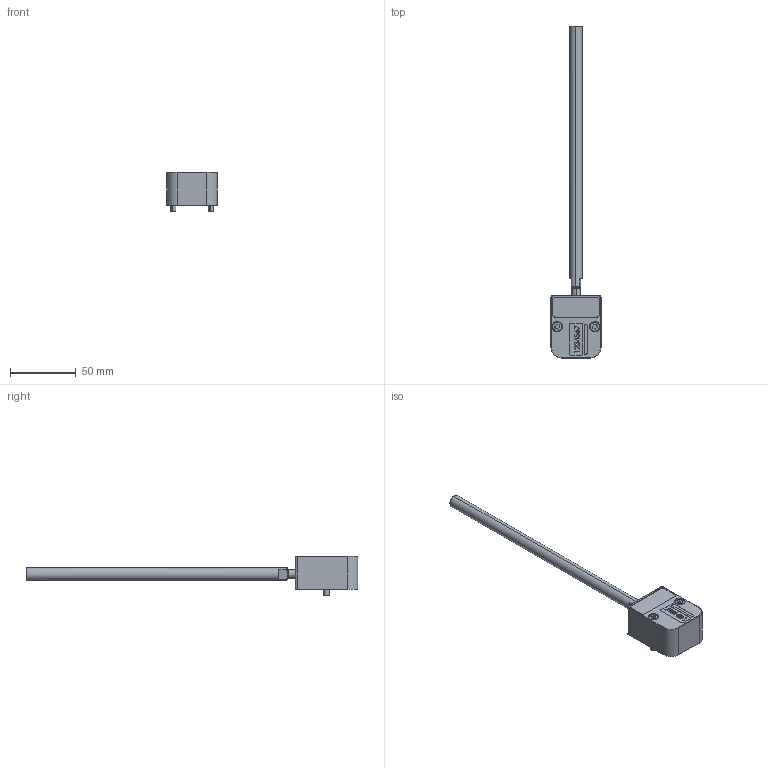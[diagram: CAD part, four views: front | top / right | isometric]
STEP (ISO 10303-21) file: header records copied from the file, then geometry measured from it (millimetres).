
FILE_DESCRIPTION (( 'STEP AP203' ), '1' );
FILE_NAME ('CVIN-B.step', '2020-03-20T01:07:54', ( 'Microsoft Corporation' ), ( 'MS' ), 'SwSTEP 2.0', 'SolidWorks 2017', '' );
FILE_SCHEMA (( 'CONFIG_CONTROL_DESIGN' ));
Length unit declared in the file: inch
Products named in the file (5): SHCSM4L25_SHCSM4L25; CVINT-1; CVIN-B; SHCS8L1.00_SHCS8L1.00
Assembly tree (6 placements, depth 2):
  CVIN-B
    CVIN-B
    CVINT-1
    SHCS8L1.00_SHCS8L1.00  x2
    SHCSM4L25_SHCSM4L25  x2
Bounding box: 38.1 x 252.6 x 30.35 mm (x, y, z)
Volume: 59874.1 mm3; surface area: 16967.2 mm2
Topology: 6 solids, 6 shells, 231 faces, 562 edges, 366 vertices
Faces by surface type: plane 121, cylinder 52, bspline 37, torus 11, cone 10
Entity records: 8585 total; most frequent: CARTESIAN_POINT 3331, ORIENTED_EDGE 1000, DIRECTION 888, EDGE_CURVE 500, VERTEX_POINT 326, LINE 306, VECTOR 306, AXIS2_PLACEMENT_3D 291
